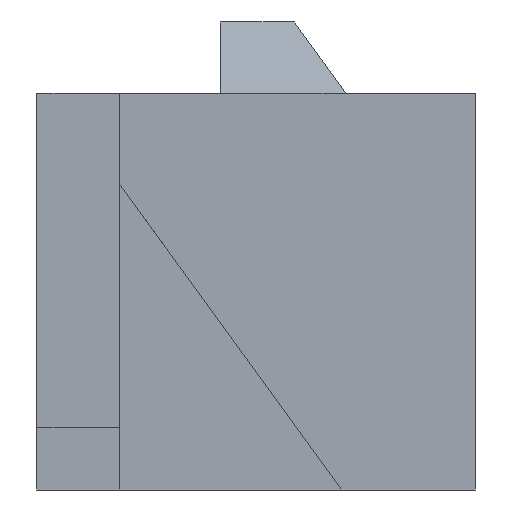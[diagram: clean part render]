
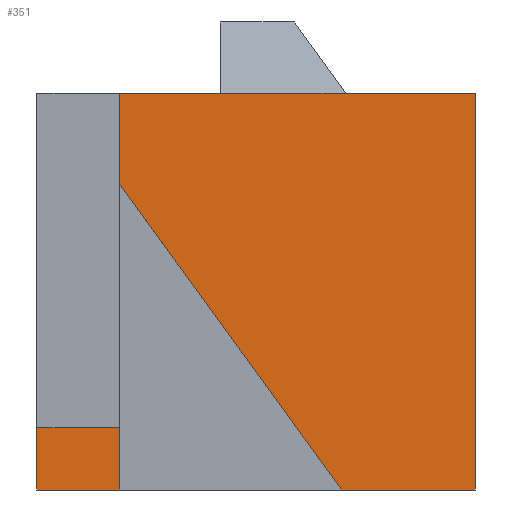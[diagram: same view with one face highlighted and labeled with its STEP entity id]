
A CAD part, left-side view. The second image highlights one B-rep face of the part: STEP entity #351.
In plain terms, the highlighted planar face has unit normal (-1, 0, 0).
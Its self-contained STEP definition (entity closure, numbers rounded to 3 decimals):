
#22=FACE_OUTER_BOUND('',#41,.T.);
#41=EDGE_LOOP('',(#252,#253,#254,#255,#256,#257,#258));
#62=LINE('',#509,#109);
#72=LINE('',#528,#119);
#74=LINE('',#532,#121);
#75=LINE('',#533,#122);
#76=LINE('',#535,#123);
#77=LINE('',#537,#124);
#78=LINE('',#538,#125);
#109=VECTOR('',#413,10.);
#119=VECTOR('',#427,10.);
#121=VECTOR('',#431,10.);
#122=VECTOR('',#432,10.);
#123=VECTOR('',#433,10.);
#124=VECTOR('',#434,10.);
#125=VECTOR('',#435,10.);
#156=VERTEX_POINT('',#507);
#157=VERTEX_POINT('',#508);
#163=VERTEX_POINT('',#525);
#164=VERTEX_POINT('',#527);
#165=VERTEX_POINT('',#531);
#166=VERTEX_POINT('',#534);
#167=VERTEX_POINT('',#536);
#188=EDGE_CURVE('',#156,#157,#62,.T.);
#198=EDGE_CURVE('',#164,#163,#72,.T.);
#200=EDGE_CURVE('',#163,#165,#74,.T.);
#201=EDGE_CURVE('',#165,#157,#75,.T.);
#202=EDGE_CURVE('',#166,#156,#76,.T.);
#203=EDGE_CURVE('',#167,#166,#77,.T.);
#204=EDGE_CURVE('',#167,#164,#78,.T.);
#252=ORIENTED_EDGE('',*,*,#198,.T.);
#253=ORIENTED_EDGE('',*,*,#200,.T.);
#254=ORIENTED_EDGE('',*,*,#201,.T.);
#255=ORIENTED_EDGE('',*,*,#188,.F.);
#256=ORIENTED_EDGE('',*,*,#202,.F.);
#257=ORIENTED_EDGE('',*,*,#203,.F.);
#258=ORIENTED_EDGE('',*,*,#204,.T.);
#333=PLANE('',#384);
#351=ADVANCED_FACE('',(#22),#333,.T.);
#384=AXIS2_PLACEMENT_3D('',#530,#429,#430);
#413=DIRECTION('',(0.,0.,1.));
#427=DIRECTION('',(0.,0.,-1.));
#429=DIRECTION('center_axis',(-1.,0.,0.));
#430=DIRECTION('ref_axis',(0.,0.,1.));
#431=DIRECTION('',(0.,-0.588,-0.809));
#432=DIRECTION('',(0.,1.,0.));
#433=DIRECTION('',(0.,1.,0.));
#434=DIRECTION('',(0.,0.,-1.));
#435=DIRECTION('',(0.,1.,0.));
#507=CARTESIAN_POINT('',(0.,74.,0.));
#508=CARTESIAN_POINT('',(0.,74.,21.853));
#509=CARTESIAN_POINT('',(0.,74.,27.677));
#525=CARTESIAN_POINT('',(0.,60.,51.531));
#527=CARTESIAN_POINT('',(0.,60.,67.));
#528=CARTESIAN_POINT('',(0.,60.,0.));
#530=CARTESIAN_POINT('Origin',(0.,0.,0.));
#531=CARTESIAN_POINT('',(0.,38.438,21.853));
#532=CARTESIAN_POINT('',(0.,18.663,-5.364));
#533=CARTESIAN_POINT('',(0.,60.,21.853));
#534=CARTESIAN_POINT('',(0.,0.,0.));
#535=CARTESIAN_POINT('',(0.,30.,0.));
#536=CARTESIAN_POINT('',(0.,0.,67.));
#537=CARTESIAN_POINT('',(0.,0.,67.));
#538=CARTESIAN_POINT('',(0.,0.,67.));
